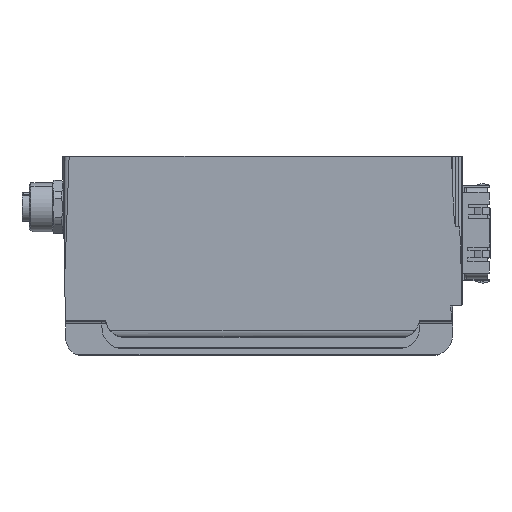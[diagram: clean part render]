
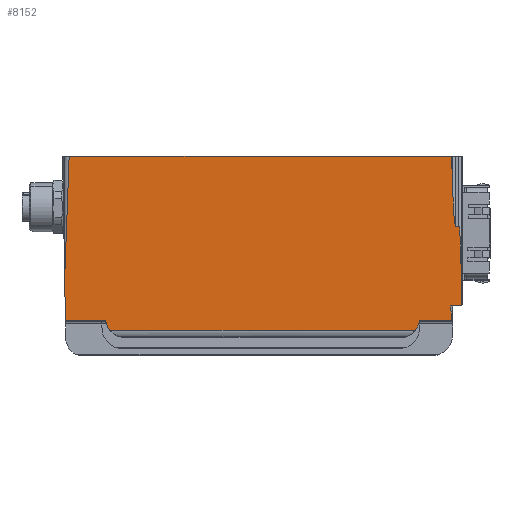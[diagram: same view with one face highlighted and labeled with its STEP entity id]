
A CAD part, left-side view. The second image highlights one B-rep face of the part: STEP entity #8152.
In plain terms, the highlighted planar face has unit normal (-1, 0, -0.017).
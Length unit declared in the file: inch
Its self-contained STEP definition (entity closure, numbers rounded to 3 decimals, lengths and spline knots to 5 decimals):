
#8152=ADVANCED_FACE('',(#20056),#20057,.F.);
#20056=FACE_OUTER_BOUND('',#37210,.T.);
#20057=PLANE('',#37211);
#37210=EDGE_LOOP('',(#58606,#58607,#58608,#58609,#58610,#58611,#58612,#58613,#58614,#58615,#58616,#58617,#58618,#58619,#58620,#58621,#58622));
#37211=AXIS2_PLACEMENT_3D('',#58623,#58624,#58625);
#58606=ORIENTED_EDGE('',*,*,#95172,.F.);
#58607=ORIENTED_EDGE('',*,*,#95173,.F.);
#58608=ORIENTED_EDGE('',*,*,#95174,.F.);
#58609=ORIENTED_EDGE('',*,*,#95175,.F.);
#58610=ORIENTED_EDGE('',*,*,#95176,.F.);
#58611=ORIENTED_EDGE('',*,*,#95177,.F.);
#58612=ORIENTED_EDGE('',*,*,#95178,.F.);
#58613=ORIENTED_EDGE('',*,*,#95179,.F.);
#58614=ORIENTED_EDGE('',*,*,#95180,.F.);
#58615=ORIENTED_EDGE('',*,*,#95181,.F.);
#58616=ORIENTED_EDGE('',*,*,#95182,.F.);
#58617=ORIENTED_EDGE('',*,*,#95183,.F.);
#58618=ORIENTED_EDGE('',*,*,#95184,.T.);
#58619=ORIENTED_EDGE('',*,*,#95185,.F.);
#58620=ORIENTED_EDGE('',*,*,#95186,.F.);
#58621=ORIENTED_EDGE('',*,*,#95187,.F.);
#58622=ORIENTED_EDGE('',*,*,#95188,.F.);
#58623=CARTESIAN_POINT('',(31.48286,17.61469,5.6979));
#58624=DIRECTION('',(1.,0.,0.017));
#58625=DIRECTION('',(0.,1.0,0.));
#95172=EDGE_CURVE('',#112711,#112712,#112713,.T.);
#95173=EDGE_CURVE('',#112714,#112711,#112715,.T.);
#95174=EDGE_CURVE('',#112716,#112714,#112717,.T.);
#95175=EDGE_CURVE('',#112718,#112716,#112719,.T.);
#95176=EDGE_CURVE('',#112720,#112718,#112721,.T.);
#95177=EDGE_CURVE('',#112722,#112720,#112723,.T.);
#95178=EDGE_CURVE('',#112724,#112722,#112725,.T.);
#95179=EDGE_CURVE('',#112726,#112724,#112727,.T.);
#95180=EDGE_CURVE('',#112728,#112726,#112729,.T.);
#95181=EDGE_CURVE('',#112730,#112728,#112731,.T.);
#95182=EDGE_CURVE('',#112732,#112730,#112733,.T.);
#95183=EDGE_CURVE('',#112734,#112732,#112735,.T.);
#95184=EDGE_CURVE('',#112734,#112736,#112737,.T.);
#95185=EDGE_CURVE('',#112738,#112736,#112739,.T.);
#95186=EDGE_CURVE('',#112740,#112738,#112741,.T.);
#95187=EDGE_CURVE('',#112742,#112740,#112743,.T.);
#95188=EDGE_CURVE('',#112712,#112742,#112744,.T.);
#112711=VERTEX_POINT('',#137929);
#112712=VERTEX_POINT('',#137930);
#112713=LINE('',#137931,#137932);
#112714=VERTEX_POINT('',#137933);
#112715=ELLIPSE('',#137934,0.23626,0.23622);
#112716=VERTEX_POINT('',#137935);
#112717=LINE('',#137936,#137937);
#112718=VERTEX_POINT('',#137938);
#112719=ELLIPSE('',#137939,4.58555,0.07874);
#112720=VERTEX_POINT('',#137940);
#112721=LINE('',#137941,#137942);
#112722=VERTEX_POINT('',#137943);
#112723=ELLIPSE('',#137944,0.03938,0.03937);
#112724=VERTEX_POINT('',#137945);
#112725=ELLIPSE('',#137946,0.03938,0.03937);
#112726=VERTEX_POINT('',#137947);
#112727=ELLIPSE('',#137948,2.29277,0.03937);
#112728=VERTEX_POINT('',#137949);
#112729=ELLIPSE('',#137950,2.29277,0.03937);
#112730=VERTEX_POINT('',#137951);
#112731=LINE('',#137952,#137953);
#112732=VERTEX_POINT('',#137954);
#112733=ELLIPSE('',#137955,4.58555,0.07874);
#112734=VERTEX_POINT('',#137956);
#112735=ELLIPSE('',#137957,4.58555,0.07874);
#112736=VERTEX_POINT('',#137958);
#112737=LINE('',#137959,#137960);
#112738=VERTEX_POINT('',#137961);
#112739=ELLIPSE('',#137962,4.58555,0.07874);
#112740=VERTEX_POINT('',#137963);
#112741=LINE('',#137964,#137965);
#112742=VERTEX_POINT('',#137966);
#112743=LINE('',#137967,#137968);
#112744=ELLIPSE('',#137969,0.23626,0.23622);
#137929=CARTESIAN_POINT('',(31.50026,16.00564,4.68443));
#137930=CARTESIAN_POINT('',(31.50026,19.37346,4.68443));
#137931=CARTESIAN_POINT('',(31.50026,17.68955,4.68443));
#137932=VECTOR('',#166836,0.11811);
#137933=CARTESIAN_POINT('',(31.4984,15.95726,4.79252));
#137934=AXIS2_PLACEMENT_3D('',#166837,#166838,#166839);
#137935=CARTESIAN_POINT('',(31.4984,15.6106,4.79252));
#137936=CARTESIAN_POINT('',(31.4984,17.65212,4.79252));
#137937=VECTOR('',#166840,0.03937);
#137938=CARTESIAN_POINT('',(31.4957,15.61275,4.95));
#137939=AXIS2_PLACEMENT_3D('',#166841,#166842,#166843);
#137940=CARTESIAN_POINT('',(31.4957,15.52419,4.95));
#137941=CARTESIAN_POINT('',(31.4957,16.5831,4.95));
#137942=VECTOR('',#166844,0.03937);
#137943=CARTESIAN_POINT('',(31.4955,15.49636,4.96153));
#137944=AXIS2_PLACEMENT_3D('',#166845,#166846,#166847);
#137945=CARTESIAN_POINT('',(31.49544,15.49338,4.96487));
#137946=AXIS2_PLACEMENT_3D('',#166848,#166849,#166850);
#137947=CARTESIAN_POINT('',(31.49211,15.49636,5.15904));
#137948=AXIS2_PLACEMENT_3D('',#166851,#166852,#166853);
#137949=CARTESIAN_POINT('',(31.48058,15.52419,5.83048));
#137950=AXIS2_PLACEMENT_3D('',#166854,#166855,#166856);
#137951=CARTESIAN_POINT('',(31.48058,15.56129,5.83048));
#137952=CARTESIAN_POINT('',(31.48058,16.5831,5.83048));
#137953=VECTOR('',#166857,0.03937);
#137954=CARTESIAN_POINT('',(31.47321,15.59456,6.25968));
#137955=AXIS2_PLACEMENT_3D('',#166858,#166859,#166860);
#137956=CARTESIAN_POINT('',(31.4673,15.60505,6.60355));
#137957=AXIS2_PLACEMENT_3D('',#166861,#166862,#166863);
#137958=CARTESIAN_POINT('',(31.4673,19.81553,6.60355));
#137959=CARTESIAN_POINT('',(31.4673,16.58882,6.60355));
#137960=VECTOR('',#166864,0.03937);
#137961=CARTESIAN_POINT('',(31.49036,19.87121,5.26068));
#137962=AXIS2_PLACEMENT_3D('',#166865,#166866,#166867);
#137963=CARTESIAN_POINT('',(31.4984,19.86317,4.79252));
#137964=CARTESIAN_POINT('',(31.48343,19.87814,5.66449));
#137965=VECTOR('',#166868,0.03937);
#137966=CARTESIAN_POINT('',(31.4984,19.42183,4.79252));
#137967=CARTESIAN_POINT('',(31.4984,17.65212,4.79252));
#137968=VECTOR('',#166869,0.03937);
#137969=AXIS2_PLACEMENT_3D('',#166870,#166871,#166872);
#166836=DIRECTION('',(0.,1.0,0.0));
#166837=CARTESIAN_POINT('',(31.49773,16.19018,4.83189));
#166838=DIRECTION('',(1.,0.,0.017));
#166839=DIRECTION('',(0.017,0.,-1.));
#166840=DIRECTION('',(0.0,1.0,0.0));
#166841=CARTESIAN_POINT('',(31.54604,15.6733,2.01868));
#166842=DIRECTION('',(1.,0.,0.017));
#166843=DIRECTION('',(-0.017,0.,1.));
#166844=DIRECTION('',(0.0,1.0,0.0));
#166845=CARTESIAN_POINT('',(31.49502,15.52419,4.98937));
#166846=DIRECTION('',(1.,0.,0.017));
#166847=DIRECTION('',(0.017,0.,-1.));
#166848=CARTESIAN_POINT('',(31.49502,15.52419,4.98937));
#166849=DIRECTION('',(1.,0.,0.017));
#166850=DIRECTION('',(0.017,0.,-1.));
#166851=CARTESIAN_POINT('',(31.51995,15.52419,3.53804));
#166852=DIRECTION('',(1.,0.,0.017));
#166853=DIRECTION('',(-0.017,0.,1.));
#166854=CARTESIAN_POINT('',(31.51995,15.52419,3.53804));
#166855=DIRECTION('',(1.,0.,0.017));
#166856=DIRECTION('',(-0.017,0.,1.));
#166857=DIRECTION('',(0.0,-1.0,0.0));
#166858=CARTESIAN_POINT('',(31.40184,15.56129,10.41535));
#166859=DIRECTION('',(-1.,0.,-0.017));
#166860=DIRECTION('',(0.017,0.,-1.));
#166861=CARTESIAN_POINT('',(31.40184,15.56129,10.41535));
#166862=DIRECTION('',(-1.,0.,-0.017));
#166863=DIRECTION('',(0.017,0.,-1.));
#166864=DIRECTION('',(0.0,1.0,0.0));
#166865=CARTESIAN_POINT('',(31.54604,19.81553,2.01868));
#166866=DIRECTION('',(1.,0.,0.017));
#166867=DIRECTION('',(-0.017,0.,1.));
#166868=DIRECTION('',(-0.017,0.017,1.));
#166869=DIRECTION('',(0.0,1.0,0.0));
#166870=CARTESIAN_POINT('',(31.49773,19.18892,4.83189));
#166871=DIRECTION('',(1.,0.,0.017));
#166872=DIRECTION('',(0.017,0.,-1.));
